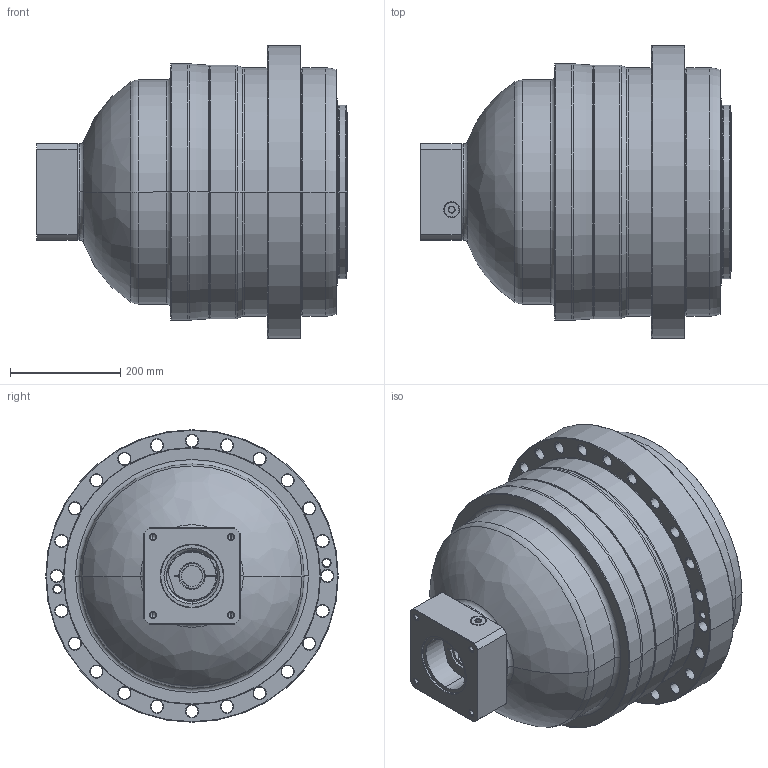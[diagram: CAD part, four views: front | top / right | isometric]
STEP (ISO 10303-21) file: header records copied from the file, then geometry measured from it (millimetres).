
FILE_DESCRIPTION((''),'2;1');
FILE_NAME('AP450_3ST_38-P0409910201_ASM','2018-06-08T',('d01226'),(''),'PRO/ENGINEER BY PARAMETRIC TECHNOLOGY CORPORATION, 2008410','PRO/ENGINEER BY PARAMETRIC TECHNOLOGY CORPORATION, 2008410','');
FILE_SCHEMA(('CONFIG_CONTROL_DESIGN'));
Length unit declared in the file: millimetre
Products named in the file (9): P0276201003; P0357201103; P1366A00101; P0503900012; P0912751001; P1222200001; P0409910201; 21711422019; AP450_3ST_38-P0409910201_ASM
Assembly tree (8 placements, depth 2):
  AP450_3ST_38-P0409910201_ASM
    P0276201003
    P0357201103
    P1366A00101
    P0503900012
    P0912751001
    P1222200001
    P0409910201
    21711422019
Bounding box: 563.5 x 530 x 530 mm (x, y, z)
Volume: 53688537.1 mm3; surface area: 2077178.1 mm2
Topology: 9 solids, 31 shells, 612 faces, 1414 edges, 860 vertices
Faces by surface type: cylinder 246, cone 178, plane 95, torus 79, bspline 14
Entity records: 22327 total; most frequent: CARTESIAN_POINT 7679, DIRECTION 3369, ORIENTED_EDGE 2724, AXIS2_PLACEMENT_3D 1440, EDGE_CURVE 1406, VERTEX_POINT 860, CIRCLE 815, EDGE_LOOP 752
